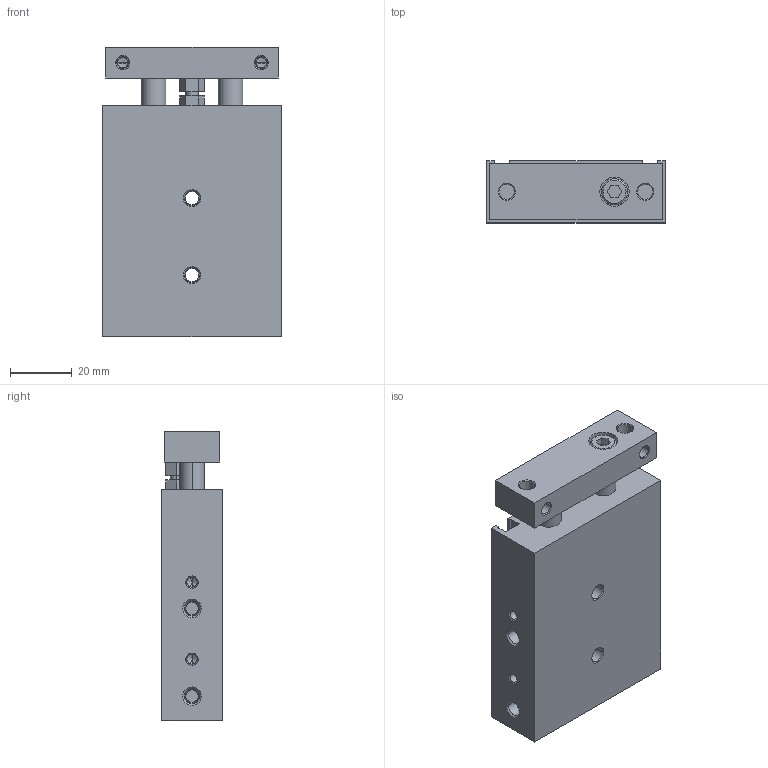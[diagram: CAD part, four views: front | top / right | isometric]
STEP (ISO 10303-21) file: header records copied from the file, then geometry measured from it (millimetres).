
FILE_DESCRIPTION (( 'STEP AP214' ), '1' );
FILE_NAME ('CXSL15-15.step.step', '2022-12-08T01:59:57', ( '' ), ( '' ), 'SwSTEP 2.0', 'SolidWorks 2022', '' );
FILE_SCHEMA (( 'AUTOMOTIVE_DESIGN' ));
Length unit declared in the file: millimetre
Products named in the file (3): CXSL15-15.step_pr_cxs_15-15; CXSL15-15.step; CXSL15-15.step_cyl_cxs_15-15
Assembly tree (2 placements, depth 2):
  CXSL15-15.step
    CXSL15-15.step_cyl_cxs_15-15
    CXSL15-15.step_pr_cxs_15-15
Bounding box: 58 x 20 x 94 mm (x, y, z)
Volume: 90607.8 mm3; surface area: 24947.8 mm2
Topology: 2 solids, 2 shells, 238 faces, 532 edges, 318 vertices
Faces by surface type: cylinder 88, plane 80, cone 70
Entity records: 6763 total; most frequent: DIRECTION 1216, CARTESIAN_POINT 1077, ORIENTED_EDGE 1032, EDGE_CURVE 516, AXIS2_PLACEMENT_3D 457, VERTEX_POINT 318, LINE 302, VECTOR 302
